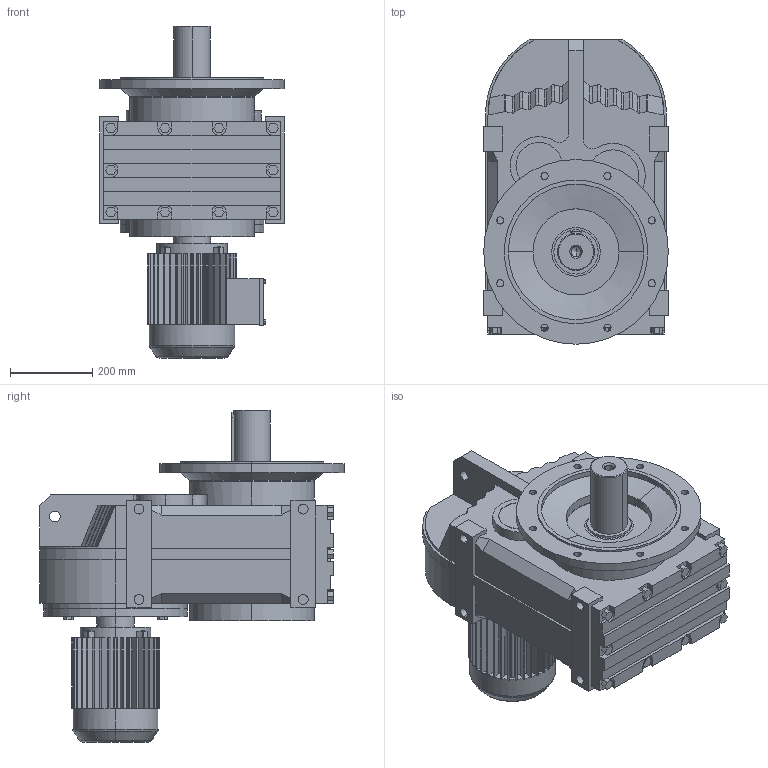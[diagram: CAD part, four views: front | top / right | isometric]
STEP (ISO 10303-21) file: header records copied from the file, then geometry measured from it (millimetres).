
FILE_DESCRIPTION(('Open CASCADE Model'),'2;1');
FILE_NAME('Open CASCADE Shape Model','2021-07-20T10:04:44',('Author'),( 'Open CASCADE'),'Open CASCADE STEP processor 6.3','Open CASCADE 6.3' ,'Unknown');
FILE_SCHEMA(('AUTOMOTIVE_DESIGN_CC2 { 1 2 10303 214 -1 1 5 4 }'));
Length unit declared in the file: millimetre
Products named in the file (5): 1_FF107-Y100M; FA27‵157_107.step; 萇儂_350_Y100M.step; す瑩妗陑粣F_107.step; 楊擘F_107.step
Assembly tree (4 placements, depth 2):
  1_FF107-Y100M
    FA27‵157_107.step
    萇儂_350_Y100M.step
    す瑩妗陑粣F_107.step
    楊擘F_107.step
Bounding box: 450 x 742 x 809 mm (x, y, z)
Volume: 91044460.3 mm3; surface area: 2694740.2 mm2
Topology: 4 solids, 4 shells, 818 faces, 2154 edges, 1400 vertices
Faces by surface type: plane 562, cylinder 224, bspline 16, cone 12, torus 4
Entity records: 55496 total; most frequent: CARTESIAN_POINT 14411, DIRECTION 7129, ORIENTED_EDGE 4304, PCURVE 4304, DEFINITIONAL_REPRESENTATION 4304, LINE 3923, VECTOR 3923, EDGE_CURVE 2152
